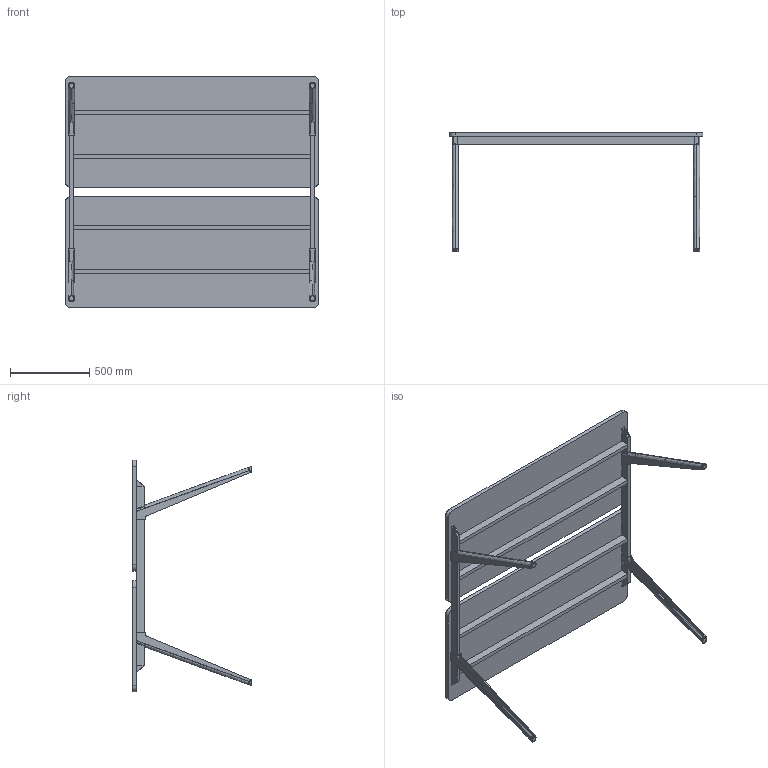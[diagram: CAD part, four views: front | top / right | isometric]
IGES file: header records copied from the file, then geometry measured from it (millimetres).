
Start section: SolidWorks IGES file using analytic representation for surfaces
Global section: file name: C:\Users\simone.cerana\OneDrive - Gruppo Tecno\Desktop\CHINA\DISEGNI DI SERIE\ASSIEMI LISTINO\HORIZON LISTINO\HO1614ST.IGS; native system: SolidWorks 2024; preprocessor: SolidWorks 2024; author: simone.cerana; date: 260508.124016; units: millimetre
Bounding box: 1600 x 749.83 x 1460 mm (x, y, z)
Surface area: 6331746.4 mm2 (no closed solid volume)
Topology: 0 solids, 0 shells, 284 faces, 3792 edges, 3792 vertices
Faces by surface type: bspline 192, revolution 92
